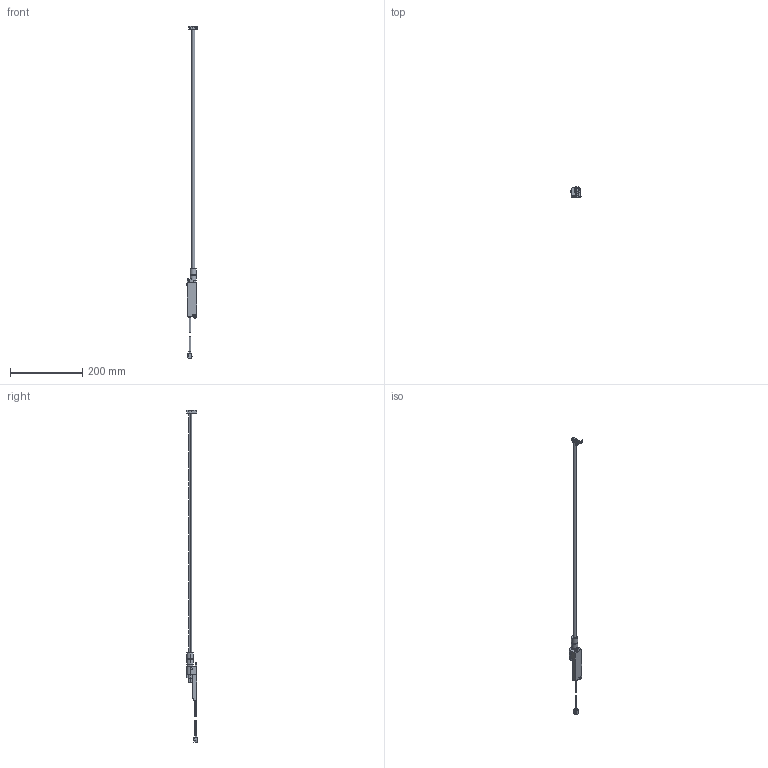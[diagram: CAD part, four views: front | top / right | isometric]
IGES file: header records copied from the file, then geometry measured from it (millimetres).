
Start section: SolidWorks IGES FILE using analytic representation for surfaces
Global section: file name: \\intra-srv04\開発データ\CAD_Data\CAD委員会\3D電子ｶﾀﾛｸﾞ\製品カタログ（新）\0_IGES\ER-VS01(+ER-VAB065).IGS; native system: SolidWorks 2004 by SolidWorks Corporation; preprocessor: Version 5.3; author: mf1158; date: 050905.092728; units: millimetre
Bounding box: 33 x 28.9 x 919.7 mm (x, y, z)
Volume: 78242.7 mm3; surface area: 44966.4 mm2
Topology: 4 solids, 4 shells, 320 faces, 867 edges, 575 vertices
Faces by surface type: revolution 203, plane 117
